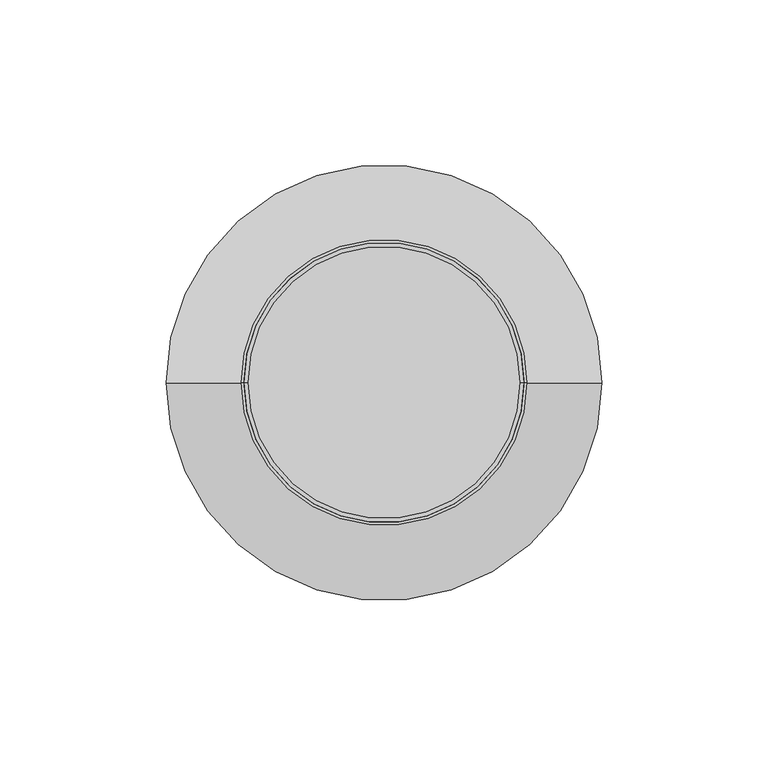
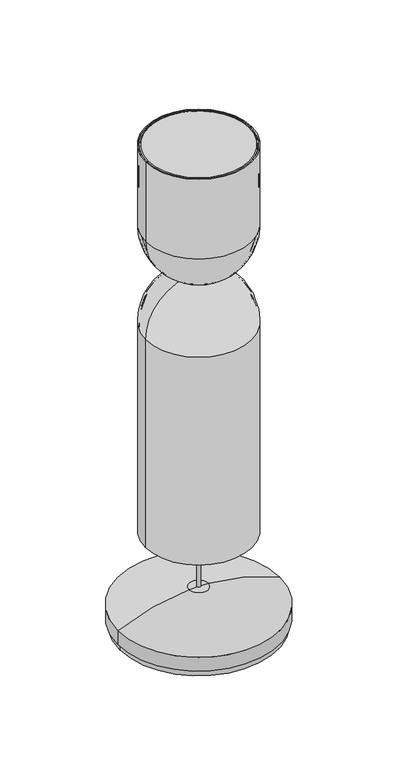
"""IFC4 building model written with IfcOpenShell, lengths in millimetres: light fixture geometry, Lighting_Pendants_Intra-Lighting_Zoe-Z3 : 600lm 11W 830 FO."""

from ifc_helpers import new_model, si_unit, point, frame, origin, origin_with_axes, origin_2d, place, context, project, spatial, polyline, circle_curve, ellipse_curve, trimmed, segment, composite_curve, outline, extrude, source, transform, mapped, element, save
from ifc_brep_helpers import plane_surface, cylinder_surface, revolved_surface, advanced_brep


def light_fixture_a07fdb93(model_context):
    return source(origin(), model_context, "Body", "SolidModel", [
        advanced_brep(
        [(-5.0, 0.0, 300.0), (5.0, 0.0, 300.0), (0.0, 0.0, 300.0), (-5.0, 0.0, 296.5), (5.0, 0.0, 296.5), (-9.8, 0.0, 296.5), (9.8, 0.0, 296.5), (-25.0, 0.0, 289.1982906), (25.0, 0.0, 289.1982906), (-25.0, 0.0, 282.4982906), (25.0, 0.0, 282.4982906), (0.0, 0.0, 282.4982906)],
        [
            (0, 1, circle_curve(frame((0.0, 0.0, 300.0), z_axis=(0.0, 0.0, 1.0), x_axis=(1.0, 0.0, 0.0)), 5.0)),
            (1, 2),
            (2, 0),
            (1, 0, circle_curve(frame((0.0, 0.0, 300.0), z_axis=(0.0, 0.0, 1.0), x_axis=(1.0, 0.0, 0.0)), 5.0)),
            (3, 4, circle_curve(frame((0.0, 0.0, 296.5), z_axis=(0.0, 0.0, 1.0), x_axis=(1.0, 0.0, 0.0)), 5.0)),
            (4, 1),
            (0, 3),
            (4, 3, circle_curve(frame((0.0, 0.0, 296.5), z_axis=(0.0, 0.0, 1.0), x_axis=(1.0, 0.0, 0.0)), 5.0)),
            (5, 6, circle_curve(frame((0.0, 0.0, 296.5), z_axis=(0.0, 0.0, 1.0), x_axis=(1.0, 0.0, 0.0)), 9.8)),
            (6, 4),
            (3, 5),
            (6, 5, circle_curve(frame((0.0, 0.0, 296.5), z_axis=(0.0, 0.0, 1.0), x_axis=(1.0, 0.0, 0.0)), 9.8)),
            (7, 8, circle_curve(frame((0.0, 0.0, 289.1982906), z_axis=(0.0, 0.0, 1.0), x_axis=(1.0, 0.0, 0.0)), 25.0)),
            (8, 6, circle_curve(frame((9.8, 0.0, 277.0281925), z_axis=(0.0, -1.0, 0.0), x_axis=(1.0, 0.0, 0.0)), 19.4718075)),
            (5, 7, circle_curve(frame((-9.8, 0.0, 277.0281925), z_axis=(0.0, -1.0, 0.0), x_axis=(-1.0, 0.0, 0.0)), 19.4718075)),
            (8, 7, circle_curve(frame((0.0, 0.0, 289.1982906), z_axis=(0.0, 0.0, 1.0), x_axis=(1.0, 0.0, 0.0)), 25.0)),
            (9, 10, circle_curve(frame((0.0, 0.0, 282.4982906), z_axis=(0.0, 0.0, 1.0), x_axis=(1.0, 0.0, 0.0)), 25.0)),
            (10, 8),
            (7, 9),
            (10, 9, circle_curve(frame((0.0, 0.0, 282.4982906), z_axis=(0.0, 0.0, 1.0), x_axis=(1.0, 0.0, 0.0)), 25.0)),
            (11, 10),
            (9, 11),
        ],
        [
            plane_surface(frame((0.0, 0.0, 300.0), z_axis=(0.0, 0.0, 1.0), x_axis=(1.0, 0.0, 0.0))),
            cylinder_surface(frame((0.0, 0.0, -468.620728), z_axis=(0.0, 0.0, -1.0), x_axis=(1.0, 0.0, 0.0)), 5.0),
            plane_surface(frame((0.0, 0.0, 296.5), z_axis=(0.0, 0.0, 1.0), x_axis=(1.0, 0.0, 0.0))),
            revolved_surface(trimmed(ellipse_curve(frame((9.8, 0.0, 277.0281925), z_axis=(0.0, 1.0, 0.0), x_axis=(1.0, 0.0, 0.0)), 19.4718075, 19.4718075), [point((9.8, 0.0, 296.5))], [point((25.0, 0.0, 289.1982906))], True, "CARTESIAN"), (0.0, 0.0, -468.620728), (0.0, 0.0, -1.0)),
            cylinder_surface(frame((0.0, 0.0, -468.620728), z_axis=(0.0, 0.0, -1.0), x_axis=(1.0, 0.0, 0.0)), 25.0),
            plane_surface(frame((0.0, 0.0, 282.4982906), z_axis=(0.0, 0.0, -1.0), x_axis=(1.0, 0.0, 0.0))),
        ],
        [
            (0, [[1, 2, 3]]),
            (0, [[4, -3, -2]]),
            (1, [[5, 6, -1, 7]]),
            (1, [[8, -7, -4, -6]]),
            (2, [[9, 10, -5, 11]]),
            (2, [[12, -11, -8, -10]]),
            (3, [[13, 14, -9, 15]]),
            (3, [[16, -15, -12, -14]]),
            (4, [[17, 18, -13, 19]]),
            (4, [[20, -19, -16, -18]]),
            (5, [[21, -17, 22]]),
            (5, [[-22, -20, -21]]),
        ],
    ),
        advanced_brep(
        [(-42.9586151, 0.0, 80.0000031), (42.9586151, 0.0, 80.0000031), (42.9586151, 0.0, 257.6805564), (-42.9586151, 0.0, 257.6805564), (-42.1586151, 0.0, 258.2055116), (42.1586151, 0.0, 258.2055116), (42.1586151, 0.0, 80.0000031), (-42.1586151, 0.0, 80.0000031), (-5.0, 0.0, 298.6299346), (5.0, 0.0, 298.6299346), (13.1648273, 0.0, 298.6299346), (-13.1648273, 0.0, 298.6299346), (-5.0, 0.0, 300.0), (5.0, 0.0, 300.0), (-10.0209635, 0.0, 300.0), (10.0209635, 0.0, 300.0)],
        [
            (0, 1, circle_curve(frame((0.0, 0.0, 80.0000031), z_axis=(0.0, 0.0, 1.0), x_axis=(1.0, 0.0, 0.0)), 42.9586151)),
            (1, 2),
            (2, 3, circle_curve(frame((0.0, 0.0, 257.6805564), z_axis=(0.0, 0.0, -1.0), x_axis=(1.0, 0.0, 0.0)), 42.9586151)),
            (3, 0),
            (1, 0, circle_curve(frame((0.0, 0.0, 80.0000031), z_axis=(0.0, 0.0, 1.0), x_axis=(1.0, 0.0, 0.0)), 42.9586151)),
            (3, 2, circle_curve(frame((0.0, 0.0, 257.6805564), z_axis=(0.0, 0.0, -1.0), x_axis=(1.0, 0.0, 0.0)), 42.9586151)),
            (4, 5, circle_curve(frame((0.0, 0.0, 258.2055116), z_axis=(0.0, 0.0, 1.0), x_axis=(1.0, 0.0, 0.0)), 42.1586151)),
            (5, 6),
            (6, 7, circle_curve(frame((0.0, 0.0, 80.0000031), z_axis=(0.0, 0.0, -1.0), x_axis=(1.0, 0.0, 0.0)), 42.1586151)),
            (7, 4),
            (5, 4, circle_curve(frame((0.0, 0.0, 258.2055116), z_axis=(0.0, 0.0, 1.0), x_axis=(1.0, 0.0, 0.0)), 42.1586151)),
            (7, 6, circle_curve(frame((0.0, 0.0, 80.0000031), z_axis=(0.0, 0.0, -1.0), x_axis=(1.0, 0.0, 0.0)), 42.1586151)),
            (8, 9, circle_curve(frame((0.0, 0.0, 298.6299346), z_axis=(0.0, 0.0, 1.0), x_axis=(1.0, 0.0, 0.0)), 5.0)),
            (9, 10),
            (10, 11, circle_curve(frame((0.0, 0.0, 298.6299346), z_axis=(0.0, 0.0, -1.0), x_axis=(1.0, 0.0, 0.0)), 13.1648273)),
            (11, 8),
            (9, 8, circle_curve(frame((0.0, 0.0, 298.6299346), z_axis=(0.0, 0.0, 1.0), x_axis=(1.0, 0.0, 0.0)), 5.0)),
            (11, 10, circle_curve(frame((0.0, 0.0, 298.6299346), z_axis=(0.0, 0.0, -1.0), x_axis=(1.0, 0.0, 0.0)), 13.1648273)),
            (12, 13, circle_curve(frame((0.0, 0.0, 300.0), z_axis=(0.0, 0.0, 1.0), x_axis=(1.0, 0.0, 0.0)), 5.0)),
            (13, 9),
            (8, 12),
            (13, 12, circle_curve(frame((0.0, 0.0, 300.0), z_axis=(0.0, 0.0, 1.0), x_axis=(1.0, 0.0, 0.0)), 5.0)),
            (14, 15, circle_curve(frame((0.0, 0.0, 300.0), z_axis=(0.0, 0.0, 1.0), x_axis=(1.0, 0.0, 0.0)), 10.0209635)),
            (15, 13),
            (12, 14),
            (15, 14, circle_curve(frame((0.0, 0.0, 300.0), z_axis=(0.0, 0.0, 1.0), x_axis=(1.0, 0.0, 0.0)), 10.0209635)),
            (2, 15, circle_curve(frame((-0.0224785, 0.0, 258.2055116), z_axis=(0.0, -1.0, 0.0), x_axis=(-1.0, 0.0, 0.0)), 42.9842993)),
            (14, 3, circle_curve(frame((0.0224785, 0.0, 258.2055116), z_axis=(0.0, -1.0, 0.0), x_axis=(1.0, 0.0, 0.0)), 42.9842993)),
            (6, 1),
            (0, 7),
            (10, 5, circle_curve(frame((-0.5190391, 0.0, 258.2055116), z_axis=(0.0, 1.0, 0.0), x_axis=(-1.0, 0.0, 0.0)), 42.6776543)),
            (4, 11, circle_curve(frame((0.5190391, 0.0, 258.2055116), z_axis=(0.0, 1.0, 0.0), x_axis=(1.0, 0.0, 0.0)), 42.6776543)),
        ],
        [
            cylinder_surface(frame((0.0, 0.0, 2294.3150062), z_axis=(0.0, 0.0, -1.0), x_axis=(1.0, 0.0, 0.0)), 42.9586151),
            revolved_surface(polyline([(42.1586151, 0.0, 80.00000309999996), (42.1586151, 0.0, 258.20551160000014)]), (0.0, 0.0, 2294.3150062), (0.0, 0.0, -1.0)),
            plane_surface(frame((0.0, 0.0, 298.6299346), z_axis=(0.0, 0.0, -1.0), x_axis=(1.0, 0.0, 0.0))),
            revolved_surface(polyline([(5.0, 0.0, 298.62993460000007), (5.0, 0.0, 300.0)]), (0.0, 0.0, 2294.3150062), (0.0, 0.0, -1.0)),
            plane_surface(frame((0.0, 0.0, 300.0), z_axis=(0.0, 0.0, 1.0), x_axis=(1.0, 0.0, 0.0))),
            revolved_surface(trimmed(ellipse_curve(frame((-0.0224785, 0.0, 258.2055116), z_axis=(0.0, 1.0, 0.0), x_axis=(-1.0, 0.0, 0.0)), 42.9842993, 42.9842993), [point((10.0209635, 0.0, 300.0))], [point((42.9586151, 0.0, 257.6805564))], True, "CARTESIAN"), (0.0, 0.0, 2294.3150062), (0.0, 0.0, -1.0)),
            plane_surface(frame((0.0, 0.0, 80.0000031), z_axis=(0.0, 0.0, -1.0), x_axis=(1.0, 0.0, 0.0))),
            revolved_surface(trimmed(ellipse_curve(frame((-0.5190391, 0.0, 258.2055116), z_axis=(0.0, -1.0, 0.0), x_axis=(-1.0, 0.0, 0.0)), 42.6776543, 42.6776543), [point((42.1586151, 0.0, 258.2055116))], [point((13.1648273, 0.0, 298.6299346))], True, "CARTESIAN"), (0.0, 0.0, 2294.3150062), (0.0, 0.0, -1.0)),
        ],
        [
            (0, [[1, 2, 3, 4]]),
            (0, [[5, -4, 6, -2]]),
            (1, [[7, 8, 9, 10]]),
            (1, [[11, -10, 12, -8]]),
            (2, [[13, 14, 15, 16]]),
            (2, [[17, -16, 18, -14]]),
            (3, [[19, 20, -13, 21]]),
            (3, [[22, -21, -17, -20]]),
            (4, [[23, 24, -19, 25]]),
            (4, [[26, -25, -22, -24]]),
            (5, [[-3, 27, -23, 28]]),
            (5, [[-6, -28, -26, -27]]),
            (6, [[-9, 29, -1, 30]]),
            (6, [[-12, -30, -5, -29]]),
            (7, [[-15, 31, -7, 32]]),
            (7, [[-18, -32, -11, -31]]),
        ],
    ),
        advanced_brep(
        [(-41.079333, 0.0, 258.1789517), (41.079333, 0.0, 258.1789517), (41.079333, 0.0, 80.0000031), (-41.079333, 0.0, 80.0000031), (-10.4087374, 0.0, 297.8425134), (10.4087374, 0.0, 297.8425134), (-5.0, 0.0, 297.8425134), (5.0, 0.0, 297.8425134), (-5.0, 0.0, 298.6299346), (5.0, 0.0, 298.6299346), (-13.1648273, 0.0, 298.6299346), (13.1648273, 0.0, 298.6299346), (-42.1586151, 0.0, 258.1789517), (42.1586151, 0.0, 258.1789517), (-42.1586151, 0.0, 80.0000031), (42.1586151, 0.0, 80.0000031)],
        [
            (0, 1, circle_curve(frame((0.0, 0.0, 258.1789517), z_axis=(0.0, 0.0, 1.0), x_axis=(1.0, 0.0, 0.0)), 41.079333)),
            (1, 2),
            (2, 3, circle_curve(frame((0.0, 0.0, 80.0000031), z_axis=(0.0, 0.0, -1.0), x_axis=(1.0, 0.0, 0.0)), 41.079333)),
            (3, 0),
            (1, 0, circle_curve(frame((0.0, 0.0, 258.1789517), z_axis=(0.0, 0.0, 1.0), x_axis=(1.0, 0.0, 0.0)), 41.079333)),
            (3, 2, circle_curve(frame((0.0, 0.0, 80.0000031), z_axis=(0.0, 0.0, -1.0), x_axis=(1.0, 0.0, 0.0)), 41.079333)),
            (4, 5, circle_curve(frame((0.0, 0.0, 297.8425134), z_axis=(0.0, 0.0, 1.0), x_axis=(1.0, 0.0, 0.0)), 10.4087374)),
            (5, 1, circle_curve(frame((0.0973516, 0.0, 258.1789517), z_axis=(0.0, 1.0, 0.0), x_axis=(-1.0, 0.0, 0.0)), 40.9819814)),
            (0, 4, circle_curve(frame((-0.0973516, 0.0, 258.1789517), z_axis=(0.0, 1.0, 0.0), x_axis=(1.0, 0.0, 0.0)), 40.9819814)),
            (5, 4, circle_curve(frame((0.0, 0.0, 297.8425134), z_axis=(0.0, 0.0, 1.0), x_axis=(1.0, 0.0, 0.0)), 10.4087374)),
            (6, 7, circle_curve(frame((0.0, 0.0, 297.8425134), z_axis=(0.0, 0.0, 1.0), x_axis=(1.0, 0.0, 0.0)), 5.0)),
            (7, 5),
            (4, 6),
            (7, 6, circle_curve(frame((0.0, 0.0, 297.8425134), z_axis=(0.0, 0.0, 1.0), x_axis=(1.0, 0.0, 0.0)), 5.0)),
            (8, 9, circle_curve(frame((0.0, 0.0, 298.6299346), z_axis=(0.0, 0.0, 1.0), x_axis=(1.0, 0.0, 0.0)), 5.0)),
            (9, 7),
            (6, 8),
            (9, 8, circle_curve(frame((0.0, 0.0, 298.6299346), z_axis=(0.0, 0.0, 1.0), x_axis=(1.0, 0.0, 0.0)), 5.0)),
            (10, 11, circle_curve(frame((0.0, 0.0, 298.6299346), z_axis=(0.0, 0.0, 1.0), x_axis=(1.0, 0.0, 0.0)), 13.1648273)),
            (11, 9),
            (8, 10),
            (11, 10, circle_curve(frame((0.0, 0.0, 298.6299346), z_axis=(0.0, 0.0, 1.0), x_axis=(1.0, 0.0, 0.0)), 13.1648273)),
            (12, 13, circle_curve(frame((0.0, 0.0, 258.1789517), z_axis=(0.0, 0.0, 1.0), x_axis=(1.0, 0.0, 0.0)), 42.1586151)),
            (13, 11, circle_curve(frame((-0.5560824, 0.0, 258.1789517), z_axis=(0.0, -1.0, 0.0), x_axis=(-1.0, 0.0, 0.0)), 42.7146975)),
            (10, 12, circle_curve(frame((0.5560824, 0.0, 258.1789517), z_axis=(0.0, -1.0, 0.0), x_axis=(1.0, 0.0, 0.0)), 42.7146975)),
            (13, 12, circle_curve(frame((0.0, 0.0, 258.1789517), z_axis=(0.0, 0.0, 1.0), x_axis=(1.0, 0.0, 0.0)), 42.1586151)),
            (14, 15, circle_curve(frame((0.0, 0.0, 80.0000031), z_axis=(0.0, 0.0, 1.0), x_axis=(1.0, 0.0, 0.0)), 42.1586151)),
            (15, 13),
            (12, 14),
            (15, 14, circle_curve(frame((0.0, 0.0, 80.0000031), z_axis=(0.0, 0.0, 1.0), x_axis=(1.0, 0.0, 0.0)), 42.1586151)),
            (2, 15),
            (14, 3),
        ],
        [
            revolved_surface(polyline([(41.079333, 0.0, 80.00000309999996), (41.079333, 0.0, 258.17895169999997)]), (0.0, 0.0, 2294.3150062), (0.0, 0.0, -1.0)),
            revolved_surface(trimmed(ellipse_curve(frame((0.0973516, 0.0, 258.1789517), z_axis=(0.0, -1.0, 0.0), x_axis=(-1.0, 0.0, 0.0)), 40.9819814, 40.9819814), [point((41.079333, 0.0, 258.1789517))], [point((10.4087374, 0.0, 297.8425134))], True, "CARTESIAN"), (0.0, 0.0, 2294.3150062), (0.0, 0.0, -1.0)),
            plane_surface(frame((0.0, 0.0, 297.8425134), z_axis=(0.0, 0.0, -1.0), x_axis=(1.0, 0.0, 0.0))),
            revolved_surface(polyline([(5.0, 0.0, 297.8425133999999), (5.0, 0.0, 298.62993460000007)]), (0.0, 0.0, 2294.3150062), (0.0, 0.0, -1.0)),
            plane_surface(frame((0.0, 0.0, 298.6299346), z_axis=(0.0, 0.0, 1.0), x_axis=(1.0, 0.0, 0.0))),
            revolved_surface(trimmed(ellipse_curve(frame((-0.5560824, 0.0, 258.1789517), z_axis=(0.0, 1.0, 0.0), x_axis=(-1.0, 0.0, 0.0)), 42.7146975, 42.7146975), [point((13.1648273, 0.0, 298.6299346))], [point((42.1586151, 0.0, 258.1789517))], True, "CARTESIAN"), (0.0, 0.0, 2294.3150062), (0.0, 0.0, -1.0)),
            cylinder_surface(frame((0.0, 0.0, 2294.3150062), z_axis=(0.0, 0.0, -1.0), x_axis=(1.0, 0.0, 0.0)), 42.1586151),
            plane_surface(frame((0.0, 0.0, 80.0000031), z_axis=(0.0, 0.0, -1.0), x_axis=(1.0, 0.0, 0.0))),
        ],
        [
            (0, [[1, 2, 3, 4]]),
            (0, [[5, -4, 6, -2]]),
            (1, [[7, 8, -1, 9]]),
            (1, [[10, -9, -5, -8]]),
            (2, [[11, 12, -7, 13]]),
            (2, [[14, -13, -10, -12]]),
            (3, [[15, 16, -11, 17]]),
            (3, [[18, -17, -14, -16]]),
            (4, [[19, 20, -15, 21]]),
            (4, [[22, -21, -18, -20]]),
            (5, [[23, 24, -19, 25]]),
            (5, [[26, -25, -22, -24]]),
            (6, [[27, 28, -23, 29]]),
            (6, [[30, -29, -26, -28]]),
            (7, [[-3, 31, -27, 32]]),
            (7, [[-6, -32, -30, -31]]),
        ],
    ),
        advanced_brep(
        [(-5.0, 0.0, 300.0), (5.0, 0.0, 300.0), (0.0, 0.0, 300.0), (-5.0, 0.0, 303.5), (5.0, 0.0, 303.5), (-9.8, 0.0, 303.5), (9.8, 0.0, 303.5), (-25.0, 0.0, 310.8017094), (25.0, 0.0, 310.8017094), (-25.0, 0.0, 317.5017094), (25.0, 0.0, 317.5017094), (0.0, 0.0, 317.5017094)],
        [
            (0, 1, circle_curve(frame((0.0, 0.0, 300.0), z_axis=(0.0, 0.0, -1.0), x_axis=(1.0, 0.0, 0.0)), 5.0)),
            (1, 2),
            (2, 0),
            (1, 0, circle_curve(frame((0.0, 0.0, 300.0), z_axis=(0.0, 0.0, -1.0), x_axis=(1.0, 0.0, 0.0)), 5.0)),
            (3, 4, circle_curve(frame((0.0, 0.0, 303.5), z_axis=(0.0, 0.0, -1.0), x_axis=(1.0, 0.0, 0.0)), 5.0)),
            (4, 1),
            (0, 3),
            (4, 3, circle_curve(frame((0.0, 0.0, 303.5), z_axis=(0.0, 0.0, -1.0), x_axis=(1.0, 0.0, 0.0)), 5.0)),
            (5, 6, circle_curve(frame((0.0, 0.0, 303.5), z_axis=(0.0, 0.0, -1.0), x_axis=(1.0, 0.0, 0.0)), 9.8)),
            (6, 4),
            (3, 5),
            (6, 5, circle_curve(frame((0.0, 0.0, 303.5), z_axis=(0.0, 0.0, -1.0), x_axis=(1.0, 0.0, 0.0)), 9.8)),
            (7, 8, circle_curve(frame((0.0, 0.0, 310.8017094), z_axis=(0.0, 0.0, -1.0), x_axis=(1.0, 0.0, 0.0)), 25.0)),
            (8, 6, circle_curve(frame((9.8, 0.0, 322.9718075), z_axis=(0.0, 1.0, 0.0), x_axis=(1.0, 0.0, 0.0)), 19.4718075)),
            (5, 7, circle_curve(frame((-9.8, 0.0, 322.9718075), z_axis=(0.0, 1.0, 0.0), x_axis=(-1.0, 0.0, 0.0)), 19.4718075)),
            (8, 7, circle_curve(frame((0.0, 0.0, 310.8017094), z_axis=(0.0, 0.0, -1.0), x_axis=(1.0, 0.0, 0.0)), 25.0)),
            (9, 10, circle_curve(frame((0.0, 0.0, 317.5017094), z_axis=(0.0, 0.0, -1.0), x_axis=(1.0, 0.0, 0.0)), 25.0)),
            (10, 8),
            (7, 9),
            (10, 9, circle_curve(frame((0.0, 0.0, 317.5017094), z_axis=(0.0, 0.0, -1.0), x_axis=(1.0, 0.0, 0.0)), 25.0)),
            (11, 10),
            (9, 11),
        ],
        [
            plane_surface(frame((0.0, 0.0, 300.0), z_axis=(0.0, 0.0, -1.0), x_axis=(1.0, 0.0, 0.0))),
            cylinder_surface(frame((0.0, 0.0, 1068.620728), z_axis=(0.0, 0.0, 1.0), x_axis=(1.0, 0.0, 0.0)), 5.0),
            plane_surface(frame((0.0, 0.0, 303.5), z_axis=(0.0, 0.0, -1.0), x_axis=(1.0, 0.0, 0.0))),
            revolved_surface(trimmed(ellipse_curve(frame((9.8, 0.0, 322.9718075), z_axis=(0.0, -1.0, 0.0), x_axis=(1.0, 0.0, 0.0)), 19.4718075, 19.4718075), [point((9.8, 0.0, 303.5))], [point((25.0, 0.0, 310.8017094))], True, "CARTESIAN"), (0.0, 0.0, 1068.620728), (0.0, 0.0, 1.0)),
            cylinder_surface(frame((0.0, 0.0, 1068.620728), z_axis=(0.0, 0.0, 1.0), x_axis=(1.0, 0.0, 0.0)), 25.0),
            plane_surface(frame((0.0, 0.0, 317.5017094), z_axis=(0.0, 0.0, 1.0), x_axis=(1.0, 0.0, 0.0))),
        ],
        [
            (0, [[1, 2, 3]]),
            (0, [[4, -3, -2]]),
            (1, [[5, 6, -1, 7]]),
            (1, [[8, -7, -4, -6]]),
            (2, [[9, 10, -5, 11]]),
            (2, [[12, -11, -8, -10]]),
            (3, [[13, 14, -9, 15]]),
            (3, [[16, -15, -12, -14]]),
            (4, [[17, 18, -13, 19]]),
            (4, [[20, -19, -16, -18]]),
            (5, [[21, -17, 22]]),
            (5, [[-22, -20, -21]]),
        ],
    ),
        advanced_brep(
        [(9.9874082, 0.0, 300.0), (-9.9874082, 0.0, 300.0), (-42.9999371, 0.0, 341.8209938), (42.9999371, 0.0, 341.8209938), (4.9982596, 0.0, 300.0), (-4.9982596, 0.0, 300.0), (4.9982596, 0.0, 301.1413211), (-4.9982596, 0.0, 301.1413211), (12.7433963, 0.0, 301.1413211), (-12.7433963, 0.0, 301.1413211), (42.5620369, 0.0, 341.8227675), (-42.5620369, 0.0, 341.8227675), (42.204104, 0.0, 409.9999718), (-42.204104, 0.0, 409.9999718), (42.9999371, 0.0, 409.9999718), (-42.9999371, 0.0, 409.9999718)],
        [
            (0, 1, circle_curve(frame((0.0, 0.0, 300.0), z_axis=(0.0, 0.0, 1.0), x_axis=(-1.0, 0.0, 0.0)), 9.9874082)),
            (1, 2, circle_curve(frame((0.2179596, 0.0, 341.996044), z_axis=(0.0, 1.0, 0.0), x_axis=(1.0, 0.0, 0.0)), 43.2182512)),
            (2, 3, circle_curve(frame((0.0, 0.0, 341.8209938), z_axis=(0.0, 0.0, -1.0), x_axis=(-1.0, 0.0, 0.0)), 42.9999371)),
            (3, 0, circle_curve(frame((-0.2179596, 0.0, 341.996044), z_axis=(0.0, 1.0, 0.0), x_axis=(-1.0, 0.0, 0.0)), 43.2182512)),
            (1, 0, circle_curve(frame((0.0, 0.0, 300.0), z_axis=(0.0, 0.0, 1.0), x_axis=(-1.0, 0.0, 0.0)), 9.9874082)),
            (3, 2, circle_curve(frame((0.0, 0.0, 341.8209938), z_axis=(0.0, 0.0, -1.0), x_axis=(-1.0, 0.0, 0.0)), 42.9999371)),
            (4, 5, circle_curve(frame((0.0, 0.0, 300.0), z_axis=(0.0, 0.0, 1.0), x_axis=(-1.0, 0.0, 0.0)), 4.9982596)),
            (5, 1),
            (0, 4),
            (5, 4, circle_curve(frame((0.0, 0.0, 300.0), z_axis=(0.0, 0.0, 1.0), x_axis=(-1.0, 0.0, 0.0)), 4.9982596)),
            (6, 7, circle_curve(frame((0.0, 0.0, 301.1413211), z_axis=(0.0, 0.0, 1.0), x_axis=(-1.0, 0.0, 0.0)), 4.9982596)),
            (7, 5),
            (4, 6),
            (7, 6, circle_curve(frame((0.0, 0.0, 301.1413211), z_axis=(0.0, 0.0, 1.0), x_axis=(-1.0, 0.0, 0.0)), 4.9982596)),
            (8, 9, circle_curve(frame((0.0, 0.0, 301.1413211), z_axis=(0.0, 0.0, 1.0), x_axis=(-1.0, 0.0, 0.0)), 12.7433963)),
            (9, 7),
            (6, 8),
            (9, 8, circle_curve(frame((0.0, 0.0, 301.1413211), z_axis=(0.0, 0.0, 1.0), x_axis=(-1.0, 0.0, 0.0)), 12.7433963)),
            (10, 11, circle_curve(frame((0.0, 0.0, 341.8227675), z_axis=(0.0, 0.0, 1.0), x_axis=(-1.0, 0.0, 0.0)), 42.5620369)),
            (11, 9, circle_curve(frame((0.4499992, 0.0, 342.0807411), z_axis=(0.0, -1.0, 0.0), x_axis=(1.0, 0.0, 0.0)), 43.0128097)),
            (8, 10, circle_curve(frame((-0.4499992, 0.0, 342.0807411), z_axis=(0.0, -1.0, 0.0), x_axis=(-1.0, 0.0, 0.0)), 43.0128097)),
            (11, 10, circle_curve(frame((0.0, 0.0, 341.8227675), z_axis=(0.0, 0.0, 1.0), x_axis=(-1.0, 0.0, 0.0)), 42.5620369)),
            (12, 13, circle_curve(frame((0.0, 0.0, 409.9999718), z_axis=(0.0, 0.0, 1.0), x_axis=(-1.0, 0.0, 0.0)), 42.204104)),
            (13, 11),
            (10, 12),
            (13, 12, circle_curve(frame((0.0, 0.0, 409.9999718), z_axis=(0.0, 0.0, 1.0), x_axis=(-1.0, 0.0, 0.0)), 42.204104)),
            (14, 15, circle_curve(frame((0.0, 0.0, 409.9999718), z_axis=(0.0, 0.0, 1.0), x_axis=(-1.0, 0.0, 0.0)), 42.9999371)),
            (15, 13),
            (12, 14),
            (15, 14, circle_curve(frame((0.0, 0.0, 409.9999718), z_axis=(0.0, 0.0, 1.0), x_axis=(-1.0, 0.0, 0.0)), 42.9999371)),
            (2, 15),
            (14, 3),
        ],
        [
            revolved_surface(trimmed(ellipse_curve(frame((0.2179596, 0.0, 341.996044), z_axis=(0.0, -1.0, 0.0), x_axis=(1.0, 0.0, 0.0)), 43.2182512, 43.2182512), [point((-42.9999371, 0.0, 341.8209938))], [point((-9.9874082, 0.0, 300.0))], True, "CARTESIAN"), (0.0, 0.0, 2514.3150031), (0.0, 0.0, -1.0)),
            plane_surface(frame((0.0, 0.0, 300.0), z_axis=(0.0, 0.0, -1.0), x_axis=(-1.0, 0.0, 0.0))),
            revolved_surface(polyline([(-4.9982596, 0.0, 300.0), (-4.9982596, 0.0, 301.1413210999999)]), (0.0, 0.0, 2514.3150031), (0.0, 0.0, -1.0)),
            plane_surface(frame((0.0, 0.0, 301.1413211), z_axis=(0.0, 0.0, 1.0), x_axis=(-1.0, 0.0, 0.0))),
            revolved_surface(trimmed(ellipse_curve(frame((0.4499992, 0.0, 342.0807411), z_axis=(0.0, 1.0, 0.0), x_axis=(1.0, 0.0, 0.0)), 43.0128097, 43.0128097), [point((-12.7433963, 0.0, 301.1413211))], [point((-42.5620369, 0.0, 341.8227675))], True, "CARTESIAN"), (0.0, 0.0, 2514.3150031), (0.0, 0.0, -1.0)),
            revolved_surface(polyline([(-42.5620369, 0.0, 341.8227675), (-42.204104, 0.0, 409.9999718)]), (0.0, 0.0, 2514.3150031), (0.0, 0.0, -1.0)),
            plane_surface(frame((0.0, 0.0, 409.9999718), z_axis=(0.0, 0.0, 1.0), x_axis=(-1.0, 0.0, 0.0))),
            cylinder_surface(frame((0.0, 0.0, 2514.3150031), z_axis=(0.0, 0.0, -1.0), x_axis=(-1.0, 0.0, 0.0)), 42.9999371),
        ],
        [
            (0, [[1, 2, 3, 4]]),
            (0, [[5, -4, 6, -2]]),
            (1, [[7, 8, -1, 9]]),
            (1, [[10, -9, -5, -8]]),
            (2, [[11, 12, -7, 13]]),
            (2, [[14, -13, -10, -12]]),
            (3, [[15, 16, -11, 17]]),
            (3, [[18, -17, -14, -16]]),
            (4, [[19, 20, -15, 21]]),
            (4, [[22, -21, -18, -20]]),
            (5, [[23, 24, -19, 25]]),
            (5, [[26, -25, -22, -24]]),
            (6, [[27, 28, -23, 29]]),
            (6, [[30, -29, -26, -28]]),
            (7, [[-3, 31, -27, 32]]),
            (7, [[-6, -32, -30, -31]]),
        ],
    ),
        advanced_brep(
        [(12.7433963, 0.0, 301.1413211), (-12.7433963, 0.0, 301.1413211), (-42.5620369, 0.0, 341.8227675), (42.5620369, 0.0, 341.8227675), (5.0, 0.0, 301.1413211), (-5.0, 0.0, 301.1413211), (9.7551095, 0.0, 301.9999506), (-9.7551095, 0.0, 301.9999506), (-5.0, 0.0, 301.9999506), (5.0, 0.0, 301.9999506), (40.9999411, 0.0, 341.8227675), (-40.9999411, 0.0, 341.8227675), (40.9999411, 0.0, 409.9999718), (-40.9999411, 0.0, 409.9999718), (42.204104, 0.0, 409.9999718), (-42.204104, 0.0, 409.9999718)],
        [
            (0, 1, circle_curve(frame((0.0, 0.0, 301.1413211), z_axis=(0.0, 0.0, 1.0), x_axis=(-1.0, 0.0, 0.0)), 12.7433963)),
            (1, 2, circle_curve(frame((0.4127903, 0.0, 342.0534678), z_axis=(0.0, 1.0, 0.0), x_axis=(1.0, 0.0, 0.0)), 42.9754464)),
            (2, 3, circle_curve(frame((0.0, 0.0, 341.8227675), z_axis=(0.0, 0.0, -1.0), x_axis=(-1.0, 0.0, 0.0)), 42.5620369)),
            (3, 0, circle_curve(frame((-0.4127903, 0.0, 342.0534678), z_axis=(0.0, 1.0, 0.0), x_axis=(-1.0, 0.0, 0.0)), 42.9754464)),
            (1, 0, circle_curve(frame((0.0, 0.0, 301.1413211), z_axis=(0.0, 0.0, 1.0), x_axis=(-1.0, 0.0, 0.0)), 12.7433963)),
            (3, 2, circle_curve(frame((0.0, 0.0, 341.8227675), z_axis=(0.0, 0.0, -1.0), x_axis=(-1.0, 0.0, 0.0)), 42.5620369)),
            (4, 5, circle_curve(frame((0.0, 0.0, 301.1413211), z_axis=(0.0, 0.0, 1.0), x_axis=(-1.0, 0.0, 0.0)), 5.0)),
            (5, 1),
            (0, 4),
            (5, 4, circle_curve(frame((0.0, 0.0, 301.1413211), z_axis=(0.0, 0.0, 1.0), x_axis=(-1.0, 0.0, 0.0)), 5.0)),
            (6, 7, circle_curve(frame((0.0, 0.0, 301.9999506), z_axis=(0.0, 0.0, 1.0), x_axis=(-1.0, 0.0, 0.0)), 9.7551095)),
            (7, 8),
            (8, 9, circle_curve(frame((0.0, 0.0, 301.9999506), z_axis=(0.0, 0.0, -1.0), x_axis=(-1.0, 0.0, 0.0)), 5.0)),
            (9, 6),
            (7, 6, circle_curve(frame((0.0, 0.0, 301.9999506), z_axis=(0.0, 0.0, 1.0), x_axis=(-1.0, 0.0, 0.0)), 9.7551095)),
            (9, 8, circle_curve(frame((0.0, 0.0, 301.9999506), z_axis=(0.0, 0.0, -1.0), x_axis=(-1.0, 0.0, 0.0)), 5.0)),
            (10, 11, circle_curve(frame((0.0, 0.0, 341.8227675), z_axis=(0.0, 0.0, 1.0), x_axis=(-1.0, 0.0, 0.0)), 40.9999411)),
            (11, 7, circle_curve(frame((0.8518479, 0.0, 342.4908261), z_axis=(0.0, -1.0, 0.0), x_axis=(1.0, 0.0, 0.0)), 41.8571206)),
            (6, 10, circle_curve(frame((-0.8518479, 0.0, 342.4908261), z_axis=(0.0, -1.0, 0.0), x_axis=(-1.0, 0.0, 0.0)), 41.8571206)),
            (11, 10, circle_curve(frame((0.0, 0.0, 341.8227675), z_axis=(0.0, 0.0, 1.0), x_axis=(-1.0, 0.0, 0.0)), 40.9999411)),
            (12, 13, circle_curve(frame((0.0, 0.0, 409.9999718), z_axis=(0.0, 0.0, 1.0), x_axis=(-1.0, 0.0, 0.0)), 40.9999411)),
            (13, 11),
            (10, 12),
            (13, 12, circle_curve(frame((0.0, 0.0, 409.9999718), z_axis=(0.0, 0.0, 1.0), x_axis=(-1.0, 0.0, 0.0)), 40.9999411)),
            (14, 15, circle_curve(frame((0.0, 0.0, 409.9999718), z_axis=(0.0, 0.0, 1.0), x_axis=(-1.0, 0.0, 0.0)), 42.204104)),
            (15, 13),
            (12, 14),
            (15, 14, circle_curve(frame((0.0, 0.0, 409.9999718), z_axis=(0.0, 0.0, 1.0), x_axis=(-1.0, 0.0, 0.0)), 42.204104)),
            (2, 15),
            (14, 3),
            (8, 5),
            (4, 9),
        ],
        [
            revolved_surface(trimmed(ellipse_curve(frame((0.4127903, 0.0, 342.0534678), z_axis=(0.0, -1.0, 0.0), x_axis=(1.0, 0.0, 0.0)), 42.9754464, 42.9754464), [point((-42.5620369, 0.0, 341.8227675))], [point((-12.7433963, 0.0, 301.1413211))], True, "CARTESIAN"), (0.0, 0.0, 2514.3150031), (0.0, 0.0, -1.0)),
            plane_surface(frame((0.0, 0.0, 301.1413211), z_axis=(0.0, 0.0, -1.0), x_axis=(-1.0, 0.0, 0.0))),
            plane_surface(frame((0.0, 0.0, 301.9999506), z_axis=(0.0, 0.0, 1.0), x_axis=(-1.0, 0.0, 0.0))),
            revolved_surface(trimmed(ellipse_curve(frame((0.8518479, 0.0, 342.4908261), z_axis=(0.0, 1.0, 0.0), x_axis=(1.0, 0.0, 0.0)), 41.8571206, 41.8571206), [point((-9.7551095, 0.0, 301.9999506))], [point((-40.9999411, 0.0, 341.8227675))], True, "CARTESIAN"), (0.0, 0.0, 2514.3150031), (0.0, 0.0, -1.0)),
            revolved_surface(polyline([(-40.9999411, 0.0, 341.8227674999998), (-40.9999411, 0.0, 409.9999717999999)]), (0.0, 0.0, 2514.3150031), (0.0, 0.0, -1.0)),
            plane_surface(frame((0.0, 0.0, 409.9999718), z_axis=(0.0, 0.0, 1.0), x_axis=(-1.0, 0.0, 0.0))),
            revolved_surface(polyline([(-42.204104, 0.0, 409.9999718), (-42.5620369, 0.0, 341.8227675)]), (0.0, 0.0, 2514.3150031), (0.0, 0.0, -1.0)),
            revolved_surface(polyline([(-5.0, 0.0, 301.1413210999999), (-5.0, 0.0, 301.9999505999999)]), (0.0, 0.0, 2514.3150031), (0.0, 0.0, -1.0)),
        ],
        [
            (0, [[1, 2, 3, 4]]),
            (0, [[5, -4, 6, -2]]),
            (1, [[7, 8, -1, 9]]),
            (1, [[10, -9, -5, -8]]),
            (2, [[11, 12, 13, 14]]),
            (2, [[15, -14, 16, -12]]),
            (3, [[17, 18, -11, 19]]),
            (3, [[20, -19, -15, -18]]),
            (4, [[21, 22, -17, 23]]),
            (4, [[24, -23, -20, -22]]),
            (5, [[25, 26, -21, 27]]),
            (5, [[28, -27, -24, -26]]),
            (6, [[-3, 29, -25, 30]]),
            (6, [[-6, -30, -28, -29]]),
            (7, [[-13, 31, -7, 32]]),
            (7, [[-16, -32, -10, -31]]),
        ],
    ),
        advanced_brep(
        [(-64.0, 0.0, 5.0365766), (64.0, 0.0, 5.0365766), (64.0, 0.0, 0.0), (-64.0, 0.0, 0.0), (-65.4959325, 0.0, 5.0365766), (65.4959325, 0.0, 5.0365766), (-65.4959325, 0.0, 16.7192078), (65.4959325, 0.0, 16.7192078), (-7.9352279, 0.0, 31.693226), (7.9352279, 0.0, 31.693226), (0.0, 0.0, 0.0), (0.0, 0.0, 31.693226)],
        [
            (0, 1, circle_curve(frame((0.0, 0.0, 5.0365766), z_axis=(0.0, 0.0, -1.0), x_axis=(1.0, 0.0, 0.0)), 64.0)),
            (1, 2),
            (2, 3, circle_curve(origin_with_axes(), 64.0)),
            (3, 0),
            (1, 0, circle_curve(frame((0.0, 0.0, 5.0365766), z_axis=(0.0, 0.0, -1.0), x_axis=(1.0, 0.0, 0.0)), 64.0)),
            (3, 2, circle_curve(origin_with_axes(), 64.0)),
            (4, 5, circle_curve(frame((0.0, 0.0, 5.0365766), z_axis=(0.0, 0.0, -1.0), x_axis=(1.0, 0.0, 0.0)), 65.4959325)),
            (5, 1),
            (0, 4),
            (5, 4, circle_curve(frame((0.0, 0.0, 5.0365766), z_axis=(0.0, 0.0, -1.0), x_axis=(1.0, 0.0, 0.0)), 65.4959325)),
            (6, 7, circle_curve(frame((0.0, 0.0, 16.7192078), z_axis=(0.0, 0.0, -1.0), x_axis=(1.0, 0.0, 0.0)), 65.4959325)),
            (7, 5),
            (4, 6),
            (7, 6, circle_curve(frame((0.0, 0.0, 16.7192078), z_axis=(0.0, 0.0, -1.0), x_axis=(1.0, 0.0, 0.0)), 65.4959325)),
            (8, 9, circle_curve(frame((0.0, 0.0, 31.693226), z_axis=(0.0, 0.0, -1.0), x_axis=(1.0, 0.0, 0.0)), 7.9352279)),
            (9, 7, circle_curve(frame((-0.676072, 0.0, -119.5287389), z_axis=(0.0, 1.0, 0.0), x_axis=(1.0, 0.0, 0.0)), 151.4669507)),
            (6, 8, circle_curve(frame((0.676072, 0.0, -119.5287389), z_axis=(0.0, 1.0, 0.0), x_axis=(-1.0, 0.0, 0.0)), 151.4669507)),
            (9, 8, circle_curve(frame((0.0, 0.0, 31.693226), z_axis=(0.0, 0.0, -1.0), x_axis=(1.0, 0.0, 0.0)), 7.9352279)),
            (2, 10),
            (10, 3),
            (11, 9),
            (8, 11),
        ],
        [
            cylinder_surface(origin_with_axes(), 64.0),
            plane_surface(frame((0.0, 0.0, 5.0365766), z_axis=(0.0, 0.0, -1.0), x_axis=(1.0, 0.0, 0.0))),
            cylinder_surface(origin_with_axes(), 65.4959325),
            revolved_surface(trimmed(ellipse_curve(frame((-0.676072, 0.0, -119.5287389), z_axis=(0.0, -1.0, 0.0), x_axis=(1.0, 0.0, 0.0)), 151.4669507, 151.4669507), [point((65.4959325, 0.0, 16.7192078))], [point((7.9352279, 0.0, 31.693226))], True, "CARTESIAN"), (0.0, 0.0, 0.0), (0.0, 0.0, 1.0)),
            plane_surface(frame((0.0, 0.0, 0.0), z_axis=(0.0, 0.0, -1.0), x_axis=(1.0, 0.0, 0.0))),
            plane_surface(frame((0.0, 0.0, 31.693226), z_axis=(0.0, 0.0, 1.0), x_axis=(1.0, 0.0, 0.0))),
        ],
        [
            (0, [[1, 2, 3, 4]]),
            (0, [[5, -4, 6, -2]]),
            (1, [[7, 8, -1, 9]]),
            (1, [[10, -9, -5, -8]]),
            (2, [[11, 12, -7, 13]]),
            (2, [[14, -13, -10, -12]]),
            (3, [[15, 16, -11, 17]]),
            (3, [[18, -17, -14, -16]]),
            (4, [[-3, 19, 20]]),
            (4, [[-6, -20, -19]]),
            (5, [[21, -15, 22]]),
            (5, [[-22, -18, -21]]),
        ],
    ),
        extrude(outline(composite_curve([segment(trimmed(circle_curve(origin_2d(), 1.4268795), [point((-1.4268795, 0.0))], [point((1.4268795, 0.0))], False, "CARTESIAN"), True, "CONTINUOUS"), segment(trimmed(circle_curve(origin_2d(), 1.4268795), [point((1.4268795, 0.0))], [point((-1.4268795, 0.0))], False, "CARTESIAN"), True, "CONTINUOUS")], self_intersect=False)), origin_with_axes(), (0.0, 0.0, 1.0), 300.0),
        extrude(outline(composite_curve([segment(trimmed(circle_curve(origin_2d(), 42.204104), [point((42.204104, 0.0))], [point((-42.204104, 0.0))], False, "CARTESIAN"), True, "CONTINUOUS"), segment(trimmed(circle_curve(origin_2d(), 42.204104), [point((-42.204104, 0.0))], [point((42.204104, 0.0))], False, "CARTESIAN"), True, "CONTINUOUS")], self_intersect=False)), frame((0.0, 0.0, 408.9999718), z_axis=(0.0, 0.0, 1.0), x_axis=(1.0, 0.0, 0.0)), (0.0, 0.0, 1.0), 1.0),
    ])


if __name__ == "__main__":
    model = new_model("IFC4")
    model_context = context("Model", 3, world=origin())
    ifc_project = project(units=[si_unit("LENGTHUNIT", "METRE", prefix="MILLI")], contexts=[model_context])
    site = spatial("IfcSite", under=ifc_project)
    building = spatial("IfcBuilding", under=site)
    placement = place(None, origin())
    light_fixture_shape = light_fixture_a07fdb93(model_context)
    element("IfcLightFixture", 1, ObjectType="Lighting_Pendants_Intra-Lighting_Zoe-Z3 : 600lm 11W 830 FO", at=placement, inside=building, context=model_context, shape_type="MappedRepresentation", body=[
        mapped(light_fixture_shape, transform((0.0, 0.0, 0.0), x_axis=(1.0, 0.0, 0.0), y_axis=(0.0, 1.0, 0.0), z_axis=(0.0, 0.0, 1.0))),
    ])
    save(model, "model.ifc")
